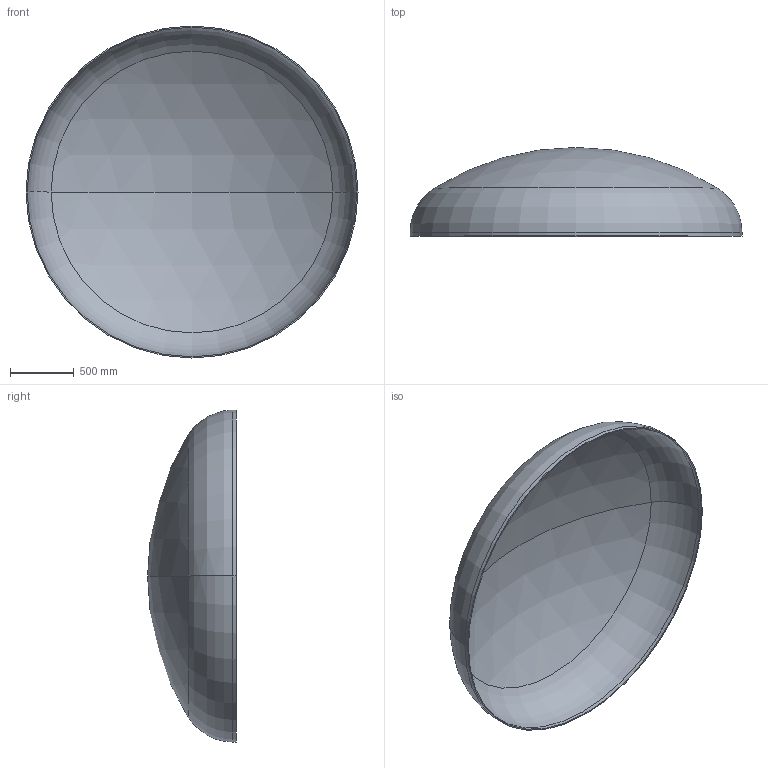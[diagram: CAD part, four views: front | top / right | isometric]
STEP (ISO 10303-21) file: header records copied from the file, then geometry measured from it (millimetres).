
FILE_DESCRIPTION (( 'STEP AP203' ), '1' );
FILE_NAME ('DIN 28013 Korbbogenform_-_Boden DIN 28013 - 2600 x 30 - I - s=9.step', '2016-07-01T15:52:19', ( '' ), ( '' ), 'SwSTEP 2.0', 'SolidWorks 2013', '' );
FILE_SCHEMA (( 'CONFIG_CONTROL_DESIGN' ));
Length unit declared in the file: millimetre
Products named in the file (1): DIN 28013 Korbbogenform_-_Boden DIN 28013 - 2600 x 30 - I - s=9
Bounding box: 2600 x 694.74 x 2600 mm (x, y, z)
Volume: 68066457.1 mm3; surface area: 15199301.7 mm2
Topology: 1 solids, 1 shells, 13 faces, 24 edges, 14 vertices
Faces by surface type: torus 4, cylinder 4, sphere 4, plane 1
Entity records: 407 total; most frequent: DIRECTION 72, CARTESIAN_POINT 52, ORIENTED_EDGE 48, AXIS2_PLACEMENT_3D 34, EDGE_CURVE 24, CIRCLE 20, EDGE_LOOP 14, VERTEX_POINT 14
